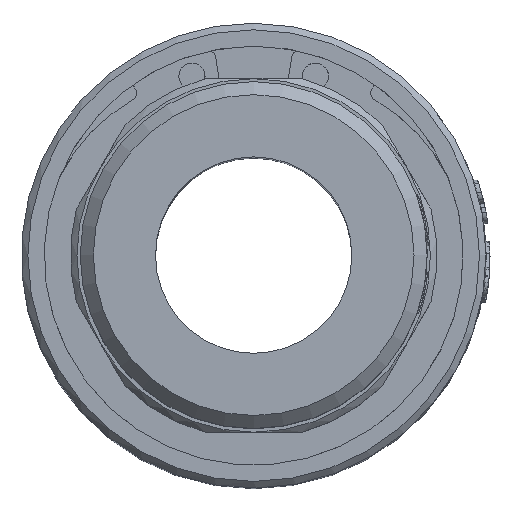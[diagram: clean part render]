
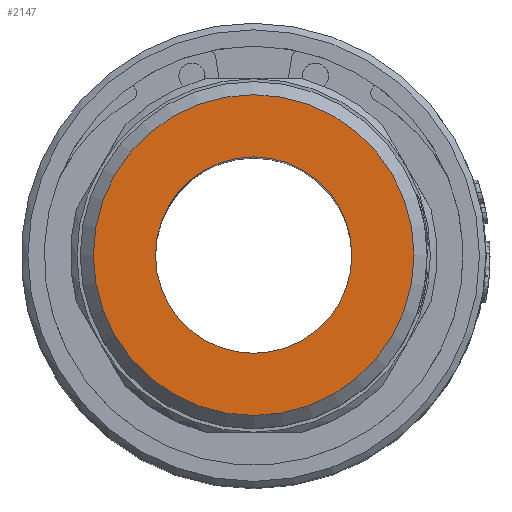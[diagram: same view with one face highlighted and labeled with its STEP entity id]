
A CAD part, top view. The second image highlights one B-rep face of the part: STEP entity #2147.
In plain terms, the highlighted planar face has unit normal (0, 0, 1).
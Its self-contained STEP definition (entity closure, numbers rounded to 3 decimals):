
#190=FACE_BOUND('',#6119,.T.);
#191=FACE_BOUND('',#6120,.T.);
#470=CIRCLE('',#21201,7.5);
#547=CIRCLE('',#21343,12.25);
#857=PLANE('',#21344);
#2147=ADVANCED_FACE('',(#190,#191),#857,.T.);
#6119=EDGE_LOOP('',(#10514));
#6120=EDGE_LOOP('',(#10515));
#10514=ORIENTED_EDGE('',*,*,#17060,.T.);
#10515=ORIENTED_EDGE('',*,*,#16910,.T.);
#14109=VERTEX_POINT('',#39521);
#14206=VERTEX_POINT('',#39911);
#16910=EDGE_CURVE('',#14109,#14109,#470,.T.);
#17060=EDGE_CURVE('',#14206,#14206,#547,.T.);
#21201=AXIS2_PLACEMENT_3D('',#39520,#23112,#23113);
#21343=AXIS2_PLACEMENT_3D('',#39910,#23443,#23444);
#21344=AXIS2_PLACEMENT_3D('',#39912,#23445,#23446);
#23112=DIRECTION('',(0.,0.,-1.));
#23113=DIRECTION('',(0.,1.,0.));
#23443=DIRECTION('',(0.,0.,1.));
#23444=DIRECTION('',(0.,1.,0.));
#23445=DIRECTION('',(0.,0.,1.));
#23446=DIRECTION('',(0.,-1.,0.));
#39520=CARTESIAN_POINT('',(0.,0.,69.));
#39521=CARTESIAN_POINT('',(0.,7.5,69.));
#39910=CARTESIAN_POINT('',(0.,0.,69.));
#39911=CARTESIAN_POINT('',(0.,12.25,69.));
#39912=CARTESIAN_POINT('',(0.,0.,69.));
